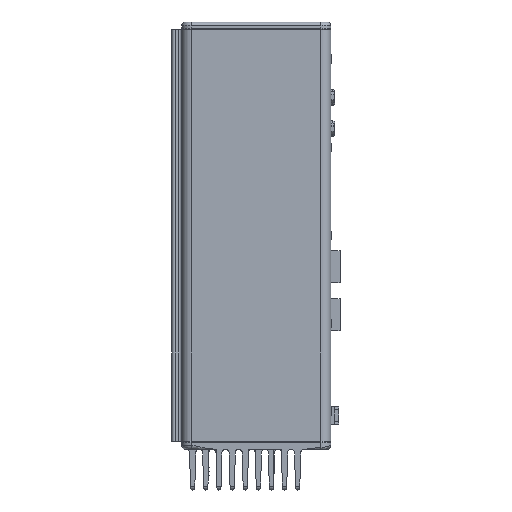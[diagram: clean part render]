
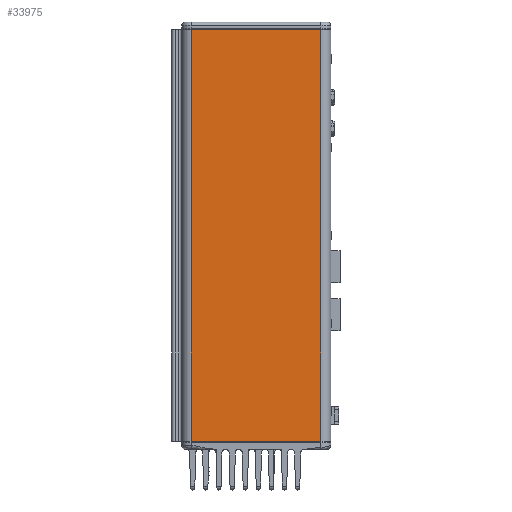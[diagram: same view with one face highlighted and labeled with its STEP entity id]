
A CAD part, left-side view. The second image highlights one B-rep face of the part: STEP entity #33975.
In plain terms, the highlighted planar face has unit normal (-1, 0, 0).
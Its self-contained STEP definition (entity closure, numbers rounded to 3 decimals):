
#1924 = CARTESIAN_POINT ( 'NONE',  ( -58.399, 35.219, 0. ) ) ;
#2116 = DIRECTION ( 'NONE',  ( 0., 0., -1. ) ) ;
#6311 = EDGE_CURVE ( 'NONE', #68228, #7541, #33824, .T. ) ;
#6328 = DIRECTION ( 'NONE',  ( 0., 0., 1. ) ) ;
#6939 = DIRECTION ( 'NONE',  ( -1., 0., 0. ) ) ;
#7541 = VERTEX_POINT ( 'NONE', #22229 ) ;
#8093 = EDGE_CURVE ( 'NONE', #65702, #68228, #49161, .T. ) ;
#17189 = VECTOR ( 'NONE', #22762, 1000. ) ;
#18301 = VECTOR ( 'NONE', #67122, 1000. ) ;
#20707 = CARTESIAN_POINT ( 'NONE',  ( -58.399, 35.219, 0. ) ) ;
#21002 = VECTOR ( 'NONE', #6328, 1000. ) ;
#22229 = CARTESIAN_POINT ( 'NONE',  ( -58.399, -30.931, 0. ) ) ;
#22762 = DIRECTION ( 'NONE',  ( 0., -1., 0. ) ) ;
#23457 = LINE ( 'NONE', #26068, #21002 ) ;
#25768 = EDGE_CURVE ( 'NONE', #7541, #53873, #23457, .T. ) ;
#26068 = CARTESIAN_POINT ( 'NONE',  ( -58.399, -30.931, 0. ) ) ;
#26601 = LINE ( 'NONE', #62463, #17189 ) ;
#26689 = CARTESIAN_POINT ( 'NONE',  ( -58.399, 40.219, 0. ) ) ;
#30928 = ORIENTED_EDGE ( 'NONE', *, *, #31695, .F. ) ;
#31695 = EDGE_CURVE ( 'NONE', #65702, #53873, #26601, .T. ) ;
#33309 = CARTESIAN_POINT ( 'NONE',  ( -58.399, 35.219, 210. ) ) ;
#33383 = PLANE ( 'NONE',  #54253 ) ;
#33824 = LINE ( 'NONE', #66532, #18301 ) ;
#33975 = ADVANCED_FACE ( 'NONE', ( #46985 ), #33383, .T. ) ;
#34167 = EDGE_LOOP ( 'NONE', ( #30928, #72041, #61723, #49835 ) ) ;
#45901 = CARTESIAN_POINT ( 'NONE',  ( -58.399, -30.931, 210. ) ) ;
#46985 = FACE_OUTER_BOUND ( 'NONE', #34167, .T. ) ;
#49161 = LINE ( 'NONE', #1924, #54374 ) ;
#49835 = ORIENTED_EDGE ( 'NONE', *, *, #25768, .T. ) ;
#53372 = DIRECTION ( 'NONE',  ( 0., 0., 1. ) ) ;
#53873 = VERTEX_POINT ( 'NONE', #45901 ) ;
#54253 = AXIS2_PLACEMENT_3D ( 'NONE', #26689, #6939, #53372 ) ;
#54374 = VECTOR ( 'NONE', #2116, 1000. ) ;
#61723 = ORIENTED_EDGE ( 'NONE', *, *, #6311, .T. ) ;
#62463 = CARTESIAN_POINT ( 'NONE',  ( -58.399, 40.219, 210. ) ) ;
#65702 = VERTEX_POINT ( 'NONE', #33309 ) ;
#66532 = CARTESIAN_POINT ( 'NONE',  ( -58.399, 40.219, 0. ) ) ;
#67122 = DIRECTION ( 'NONE',  ( 0., -1., 0. ) ) ;
#68228 = VERTEX_POINT ( 'NONE', #20707 ) ;
#72041 = ORIENTED_EDGE ( 'NONE', *, *, #8093, .T. ) ;
